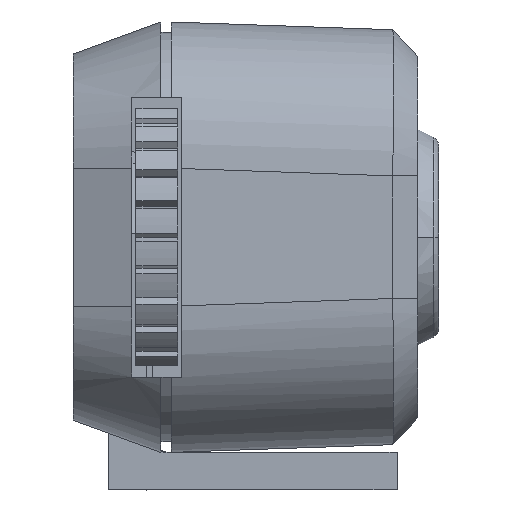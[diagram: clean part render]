
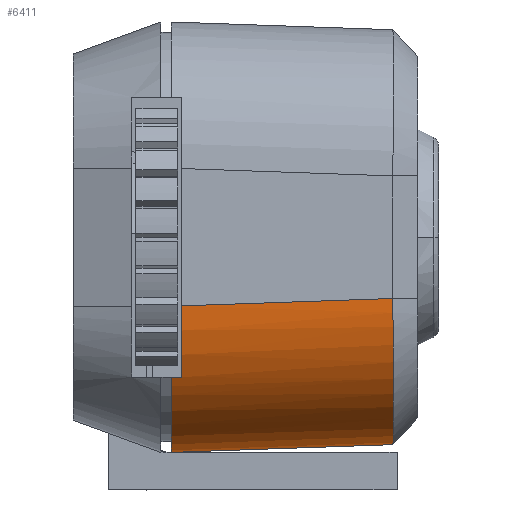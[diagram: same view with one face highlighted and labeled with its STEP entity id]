
A CAD part, front view. The second image highlights one B-rep face of the part: STEP entity #6411.
In plain terms, the highlighted cylindrical face has radius 7 mm (diameter 14 mm), a partial arc.
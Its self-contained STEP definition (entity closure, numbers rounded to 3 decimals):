
#51 = CARTESIAN_POINT ( 'NONE',  ( 98.55, 9.93, 10.606 ) ) ;
#170 = CARTESIAN_POINT ( 'NONE',  ( 104.983, 3.288, 0.474 ) ) ;
#180 = CARTESIAN_POINT ( 'NONE',  ( 104.63, 3.85, 10.606 ) ) ;
#209 = B_SPLINE_CURVE_WITH_KNOTS ( 'NONE', 3,
 ( #1907, #51, #711, #7117, #2661, #1463, #673, #6998, #180, #3191 ),
 .UNSPECIFIED., .F., .F.,
 ( 4, 2, 2, 2, 4 ),
 ( 0., 0.25, 0.5, 0.75, 1. ),
 .UNSPECIFIED. ) ;
#276 = CARTESIAN_POINT ( 'NONE',  ( 104.094, 6.7, 0.5 ) ) ;
#283 = ORIENTED_EDGE ( 'NONE', *, *, #6107, .F. ) ;
#503 = VERTEX_POINT ( 'NONE', #3254 ) ;
#673 = CARTESIAN_POINT ( 'NONE',  ( 103.746, 6.457, 10.621 ) ) ;
#711 = CARTESIAN_POINT ( 'NONE',  ( 99.465, 9.747, 10.612 ) ) ;
#817 = DIRECTION ( 'NONE',  ( -0.999, 0., -0.035 ) ) ;
#849 = VERTEX_POINT ( 'NONE', #7621 ) ;
#865 = CARTESIAN_POINT ( 'NONE',  ( 104.983, 4.489, 0.5 ) ) ;
#945 =( BOUNDED_CURVE ( )  B_SPLINE_CURVE ( 3, ( #5914, #4591, #7847, #7113 ),
 .UNSPECIFIED., .F., .T. ) 
 B_SPLINE_CURVE_WITH_KNOTS ( ( 4, 4 ),
 ( 5.498, 6.562 ),
 .UNSPECIFIED. ) 
 CURVE ( )  GEOMETRIC_REPRESENTATION_ITEM ( )  RATIONAL_B_SPLINE_CURVE ( ( 1., 0.908, 0.908, 1. ) ) 
 REPRESENTATION_ITEM ( '' )  );
#1071 = VERTEX_POINT ( 'NONE', #2164 ) ;
#1348 = DIRECTION ( 'NONE',  ( 0.035, 0.035, -0.999 ) ) ;
#1367 = EDGE_CURVE ( 'NONE', #849, #2289, #5451, .T. ) ;
#1463 = CARTESIAN_POINT ( 'NONE',  ( 103.228, 7.233, 10.623 ) ) ;
#1492 = CARTESIAN_POINT ( 'NONE',  ( 104.63, 2.934, 10.601 ) ) ;
#1907 = CARTESIAN_POINT ( 'NONE',  ( 97.634, 9.93, 10.601 ) ) ;
#2164 = CARTESIAN_POINT ( 'NONE',  ( 104.121, 6.7, 0. ) ) ;
#2289 = VERTEX_POINT ( 'NONE', #3318 ) ;
#2299 = EDGE_CURVE ( 'NONE', #2289, #1071, #945, .T. ) ;
#2333 = DIRECTION ( 'NONE',  ( -0.035, -0.035, 0.999 ) ) ;
#2661 = CARTESIAN_POINT ( 'NONE',  ( 101.933, 8.528, 10.623 ) ) ;
#2674 = CYLINDRICAL_SURFACE ( 'NONE', #4138, 7. ) ;
#2988 = ORIENTED_EDGE ( 'NONE', *, *, #5210, .F. ) ;
#3079 = ORIENTED_EDGE ( 'NONE', *, *, #1367, .F. ) ;
#3097 = VERTEX_POINT ( 'NONE', #3250 ) ;
#3191 = CARTESIAN_POINT ( 'NONE',  ( 104.63, 2.934, 10.601 ) ) ;
#3250 = CARTESIAN_POINT ( 'NONE',  ( 104.094, 6.7, 0.5 ) ) ;
#3254 = CARTESIAN_POINT ( 'NONE',  ( 104.983, 3.287, 0.5 ) ) ;
#3309 = LINE ( 'NONE', #170, #4062 ) ;
#3318 = CARTESIAN_POINT ( 'NONE',  ( 98.004, 10.3, 0. ) ) ;
#3346 = EDGE_LOOP ( 'NONE', ( #283, #5070, #7830, #3079, #5978, #2988 ) ) ;
#3878 = EDGE_CURVE ( 'NONE', #849, #6110, #209, .T. ) ;
#4062 = VECTOR ( 'NONE', #2333, 1000. ) ;
#4138 = AXIS2_PLACEMENT_3D ( 'NONE', #7134, #1348, #817 ) ;
#4585 =( BOUNDED_CURVE ( )  B_SPLINE_CURVE ( 3, ( #6551, #5932, #7905, #276 ),
 .UNSPECIFIED., .F., .F. ) 
 B_SPLINE_CURVE_WITH_KNOTS ( ( 4, 4 ),
 ( 2.077, 2.08 ),
 .UNSPECIFIED. ) 
 CURVE ( )  GEOMETRIC_REPRESENTATION_ITEM ( )  RATIONAL_B_SPLINE_CURVE ( ( 1., 1., 1., 1. ) ) 
 REPRESENTATION_ITEM ( '' )  );
#4587 = CARTESIAN_POINT ( 'NONE',  ( 104.094, 6.7, 0.5 ) ) ;
#4591 = CARTESIAN_POINT ( 'NONE',  ( 100.611, 10.3, 0. ) ) ;
#5070 = ORIENTED_EDGE ( 'NONE', *, *, #6607, .F. ) ;
#5176 = CARTESIAN_POINT ( 'NONE',  ( 104.983, 3.287, 0.5 ) ) ;
#5210 = EDGE_CURVE ( 'NONE', #503, #6110, #3309, .T. ) ;
#5376 =( BOUNDED_CURVE ( )  B_SPLINE_CURVE ( 3, ( #4587, #5871, #865, #5176 ),
 .UNSPECIFIED., .F., .F. ) 
 B_SPLINE_CURVE_WITH_KNOTS ( ( 4, 4 ),
 ( 0.276, 0.785 ),
 .UNSPECIFIED. ) 
 CURVE ( )  GEOMETRIC_REPRESENTATION_ITEM ( )  RATIONAL_B_SPLINE_CURVE ( ( 1., 0.979, 0.979, 1. ) ) 
 REPRESENTATION_ITEM ( '' )  );
#5451 = LINE ( 'NONE', #6075, #5816 ) ;
#5816 = VECTOR ( 'NONE', #7817, 1000. ) ;
#5820 = FACE_OUTER_BOUND ( 'NONE', #3346, .T. ) ;
#5871 = CARTESIAN_POINT ( 'NONE',  ( 104.68, 5.651, 0.5 ) ) ;
#5914 = CARTESIAN_POINT ( 'NONE',  ( 98.004, 10.3, 0. ) ) ;
#5932 = CARTESIAN_POINT ( 'NONE',  ( 104.112, 6.7, 0.167 ) ) ;
#5978 = ORIENTED_EDGE ( 'NONE', *, *, #3878, .T. ) ;
#6075 = CARTESIAN_POINT ( 'NONE',  ( 97.757, 10.053, 7.072 ) ) ;
#6107 = EDGE_CURVE ( 'NONE', #3097, #503, #5376, .T. ) ;
#6110 = VERTEX_POINT ( 'NONE', #1492 ) ;
#6411 = ADVANCED_FACE ( 'NONE', ( #5820 ), #2674, .T. ) ;
#6551 = CARTESIAN_POINT ( 'NONE',  ( 104.121, 6.7, 0. ) ) ;
#6607 = EDGE_CURVE ( 'NONE', #1071, #3097, #4585, .T. ) ;
#6998 = CARTESIAN_POINT ( 'NONE',  ( 104.447, 4.765, 10.612 ) ) ;
#7113 = CARTESIAN_POINT ( 'NONE',  ( 104.121, 6.7, 0. ) ) ;
#7117 = CARTESIAN_POINT ( 'NONE',  ( 101.157, 9.046, 10.621 ) ) ;
#7134 = CARTESIAN_POINT ( 'NONE',  ( 97.757, 3.057, 6.828 ) ) ;
#7621 = CARTESIAN_POINT ( 'NONE',  ( 97.634, 9.93, 10.601 ) ) ;
#7817 = DIRECTION ( 'NONE',  ( 0.035, 0.035, -0.999 ) ) ;
#7830 = ORIENTED_EDGE ( 'NONE', *, *, #2299, .F. ) ;
#7847 = CARTESIAN_POINT ( 'NONE',  ( 102.857, 8.978, 0. ) ) ;
#7905 = CARTESIAN_POINT ( 'NONE',  ( 104.103, 6.7, 0.333 ) ) ;
